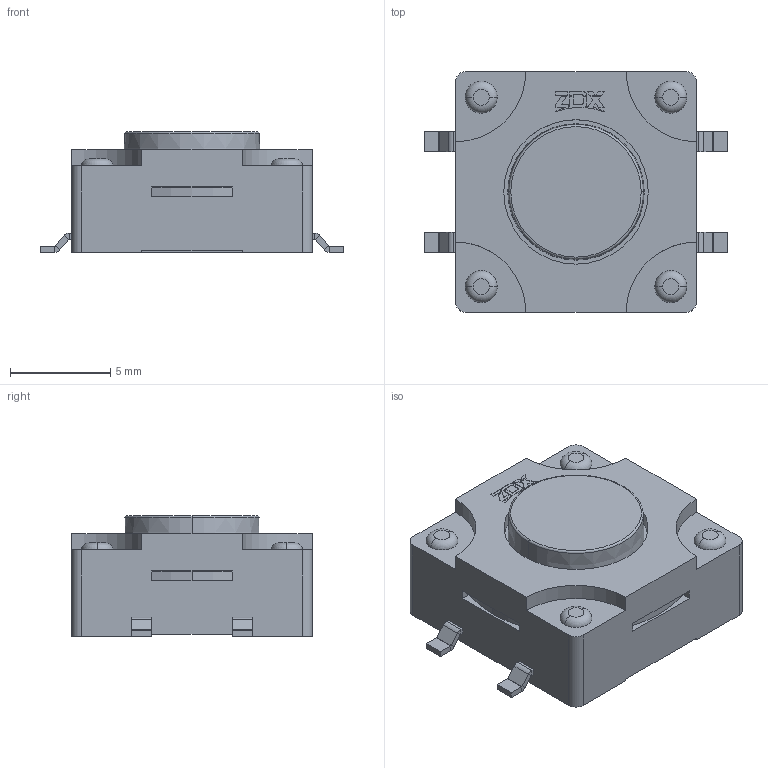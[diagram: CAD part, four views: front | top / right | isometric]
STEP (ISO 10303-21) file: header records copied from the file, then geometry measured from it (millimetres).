
FILE_DESCRIPTION((''),'2;1');
FILE_NAME('ASM0002_ASM','2024-01-04T',('WYH'),(''),'PRO/ENGINEER BY PARAMETRIC TECHNOLOGY CORPORATION, 2013040','PRO/ENGINEER BY PARAMETRIC TECHNOLOGY CORPORATION, 2013040','');
FILE_SCHEMA(('CONFIG_CONTROL_DESIGN'));
Length unit declared in the file: millimetre
Products named in the file (1): ASM0002_ASM
Bounding box: 15.1 x 12 x 6 mm (x, y, z)
Volume: 587.9 mm3; surface area: 1332.8 mm2
Topology: 2 solids, 10 shells, 345 faces, 822 edges, 520 vertices
Faces by surface type: plane 219, cylinder 90, torus 28, cone 4, bspline 4
Entity records: 10118 total; most frequent: CARTESIAN_POINT 1882, DIRECTION 1746, ORIENTED_EDGE 1644, EDGE_CURVE 822, AXIS2_PLACEMENT_3D 590, VECTOR 566, LINE 566, VERTEX_POINT 520
